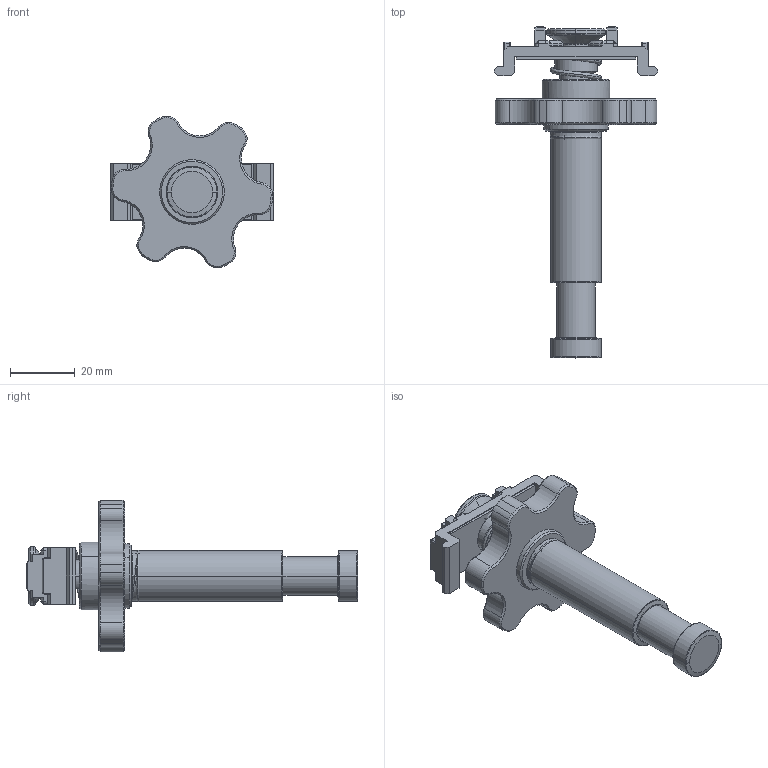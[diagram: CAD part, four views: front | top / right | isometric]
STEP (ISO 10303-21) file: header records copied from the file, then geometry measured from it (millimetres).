
FILE_DESCRIPTION (( 'STEP AP214' ), '1' );
FILE_NAME ('TrackSpigot 16.STEP', '2025-09-25T06:36:15', ( '' ), ( '' ), 'SwSTEP 2.0', 'SolidWorks 2016', '' );
FILE_SCHEMA (( 'AUTOMOTIVE_DESIGN' ));
Length unit declared in the file: millimetre
Products named in the file (7): 38385-Knurled screw rod; 17444-Spring; 37444-Knurl nut; 37445-Bracket-locker; 19005-PEVA rubber anti-slip tape; TrackSpigot 16; 17002-Babypin disc
Assembly tree (6 placements, depth 2):
  TrackSpigot 16
    38385-Knurled screw rod
    37444-Knurl nut
    17002-Babypin disc
    17444-Spring
    19005-PEVA rubber anti-slip tape
    37445-Bracket-locker
Bounding box: 50.5 x 102.73 x 47.04 mm (x, y, z)
Volume: 27316.4 mm3; surface area: 19071.8 mm2
Topology: 6 solids, 6 shells, 486 faces, 1225 edges, 742 vertices
Faces by surface type: cylinder 190, plane 130, cone 108, torus 39, bspline 11, sphere 8
Entity records: 23759 total; most frequent: CARTESIAN_POINT 12023, DIRECTION 2463, ORIENTED_EDGE 2422, EDGE_CURVE 1211, AXIS2_PLACEMENT_3D 935, VERTEX_POINT 742, LINE 593, VECTOR 593
